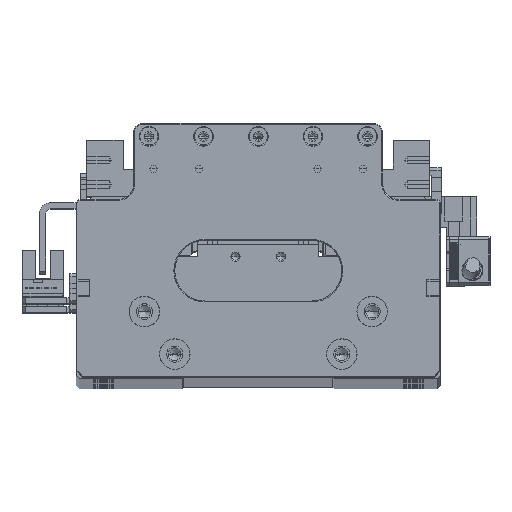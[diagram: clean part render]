
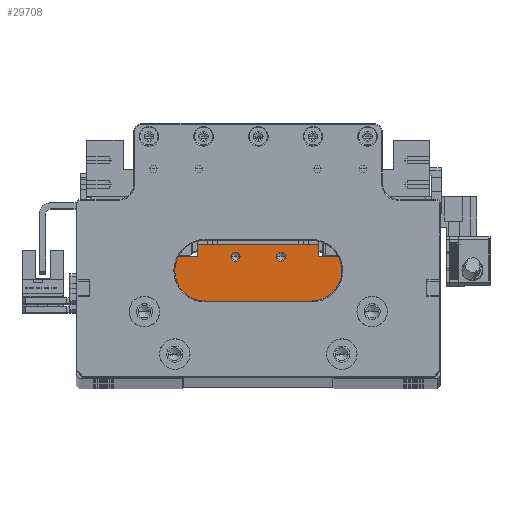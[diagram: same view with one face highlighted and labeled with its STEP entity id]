
A CAD part, top view. The second image highlights one B-rep face of the part: STEP entity #29708.
In plain terms, the highlighted planar face has unit normal (0, 0, 1).
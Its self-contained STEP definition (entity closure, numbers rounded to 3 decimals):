
#1036 = CARTESIAN_POINT ( 'NONE',  ( -7.5, 29.7, 83.854 ) ) ;
#2662 = CARTESIAN_POINT ( 'NONE',  ( -20., 25.7, 83.854 ) ) ;
#2849 = EDGE_CURVE ( 'NONE', #4302, #42334, #73839, .T. ) ;
#4302 = VERTEX_POINT ( 'NONE', #118295 ) ;
#4430 = CARTESIAN_POINT ( 'NONE',  ( -7.5, 25.7, 83.854 ) ) ;
#6044 = LINE ( 'NONE', #32846, #84446 ) ;
#7222 = EDGE_CURVE ( 'NONE', #77013, #39960, #92653, .T. ) ;
#7950 = ORIENTED_EDGE ( 'NONE', *, *, #119287, .F. ) ;
#10387 = VECTOR ( 'NONE', #34068, 1000. ) ;
#10815 = DIRECTION ( 'NONE',  ( 1., 0., 0. ) ) ;
#11184 = CARTESIAN_POINT ( 'NONE',  ( 5.975, 25.8, 83.854 ) ) ;
#11990 = VERTEX_POINT ( 'NONE', #11184 ) ;
#12767 = CARTESIAN_POINT ( 'NONE',  ( 7.5, 25.8, 83.854 ) ) ;
#13028 = DIRECTION ( 'NONE',  ( 0., 1., 0. ) ) ;
#14573 = CARTESIAN_POINT ( 'NONE',  ( 29.9, 25.7, 83.854 ) ) ;
#16438 = LINE ( 'NONE', #56252, #42579 ) ;
#16592 = DIRECTION ( 'NONE',  ( -1., 0., 0. ) ) ;
#16772 = VERTEX_POINT ( 'NONE', #14573 ) ;
#17120 = DIRECTION ( 'NONE',  ( 0., 1., 0. ) ) ;
#18432 = VECTOR ( 'NONE', #52966, 1000. ) ;
#19753 = CARTESIAN_POINT ( 'NONE',  ( 7.5, 25.8, 83.854 ) ) ;
#21993 = DIRECTION ( 'NONE',  ( 0., 0., 1. ) ) ;
#22700 = DIRECTION ( 'NONE',  ( 1., 0., 0. ) ) ;
#25108 = FACE_BOUND ( 'NONE', #78675, .T. ) ;
#28981 = DIRECTION ( 'NONE',  ( 0., -1., 0. ) ) ;
#29654 = DIRECTION ( 'NONE',  ( 1., 0., 0. ) ) ;
#29708 = ADVANCED_FACE ( 'NONE', ( #77389, #25108, #48092 ), #55708, .F. ) ;
#31917 = CARTESIAN_POINT ( 'NONE',  ( -7.5, 25.8, 83.854 ) ) ;
#32846 = CARTESIAN_POINT ( 'NONE',  ( -20., 18.2, 83.854 ) ) ;
#34068 = DIRECTION ( 'NONE',  ( 1., 0., 0. ) ) ;
#36559 = LINE ( 'NONE', #4430, #10387 ) ;
#38395 = CARTESIAN_POINT ( 'NONE',  ( 20., 18.2, 83.854 ) ) ;
#39960 = VERTEX_POINT ( 'NONE', #48830 ) ;
#40944 = EDGE_LOOP ( 'NONE', ( #70105, #49690, #107621, #7950, #80317, #75549, #46246, #125651 ) ) ;
#41177 = ORIENTED_EDGE ( 'NONE', *, *, #42309, .F. ) ;
#41758 = DIRECTION ( 'NONE',  ( 1., 0., 0. ) ) ;
#42309 = EDGE_CURVE ( 'NONE', #109748, #87453, #82904, .T. ) ;
#42318 = LINE ( 'NONE', #94685, #117597 ) ;
#42334 = VERTEX_POINT ( 'NONE', #2662 ) ;
#42579 = VECTOR ( 'NONE', #17120, 1000. ) ;
#42596 = CIRCLE ( 'NONE', #124258, 1.525 ) ;
#43756 = EDGE_CURVE ( 'NONE', #78269, #11990, #42596, .T. ) ;
#46246 = ORIENTED_EDGE ( 'NONE', *, *, #7222, .F. ) ;
#48092 = FACE_BOUND ( 'NONE', #114308, .T. ) ;
#48830 = CARTESIAN_POINT ( 'NONE',  ( 20., 29.7, 83.854 ) ) ;
#49690 = ORIENTED_EDGE ( 'NONE', *, *, #86736, .F. ) ;
#50967 = ORIENTED_EDGE ( 'NONE', *, *, #58809, .F. ) ;
#52382 = VERTEX_POINT ( 'NONE', #52848 ) ;
#52848 = CARTESIAN_POINT ( 'NONE',  ( 20., 25.7, 83.854 ) ) ;
#52966 = DIRECTION ( 'NONE',  ( 1., 0., 0. ) ) ;
#53151 = CARTESIAN_POINT ( 'NONE',  ( -20., 29.7, 83.854 ) ) ;
#54073 = LINE ( 'NONE', #38395, #100126 ) ;
#55708 = PLANE ( 'NONE',  #106803 ) ;
#56252 = CARTESIAN_POINT ( 'NONE',  ( -29.9, 18.2, 83.854 ) ) ;
#58809 = EDGE_CURVE ( 'NONE', #87453, #109748, #98059, .T. ) ;
#58899 = CARTESIAN_POINT ( 'NONE',  ( -5.975, 25.8, 83.854 ) ) ;
#60214 = ORIENTED_EDGE ( 'NONE', *, *, #43756, .F. ) ;
#62388 = VECTOR ( 'NONE', #93646, 1000. ) ;
#64556 = AXIS2_PLACEMENT_3D ( 'NONE', #31917, #100576, #41758 ) ;
#66584 = VECTOR ( 'NONE', #10815, 1000. ) ;
#66655 = CARTESIAN_POINT ( 'NONE',  ( 29.9, 6.5, 83.854 ) ) ;
#67441 = CIRCLE ( 'NONE', #76113, 1.525 ) ;
#68400 = EDGE_CURVE ( 'NONE', #11990, #78269, #67441, .T. ) ;
#70105 = ORIENTED_EDGE ( 'NONE', *, *, #2849, .F. ) ;
#71342 = EDGE_CURVE ( 'NONE', #94326, #112974, #88505, .T. ) ;
#73839 = LINE ( 'NONE', #102346, #18432 ) ;
#74919 = AXIS2_PLACEMENT_3D ( 'NONE', #80859, #21993, #90694 ) ;
#75490 = DIRECTION ( 'NONE',  ( 0., 0., -1. ) ) ;
#75549 = ORIENTED_EDGE ( 'NONE', *, *, #95179, .F. ) ;
#76113 = AXIS2_PLACEMENT_3D ( 'NONE', #19753, #88494, #29654 ) ;
#77013 = VERTEX_POINT ( 'NONE', #53151 ) ;
#77389 = FACE_OUTER_BOUND ( 'NONE', #40944, .T. ) ;
#78269 = VERTEX_POINT ( 'NONE', #82509 ) ;
#78675 = EDGE_LOOP ( 'NONE', ( #60214, #126557 ) ) ;
#79264 = EDGE_CURVE ( 'NONE', #52382, #16772, #36559, .T. ) ;
#80317 = ORIENTED_EDGE ( 'NONE', *, *, #79264, .F. ) ;
#80859 = CARTESIAN_POINT ( 'NONE',  ( -7.5, 25.8, 83.854 ) ) ;
#81538 = DIRECTION ( 'NONE',  ( 0., 0., 1. ) ) ;
#82509 = CARTESIAN_POINT ( 'NONE',  ( 9.025, 25.8, 83.854 ) ) ;
#82904 = CIRCLE ( 'NONE', #74919, 1.525 ) ;
#84446 = VECTOR ( 'NONE', #13028, 1000. ) ;
#86736 = EDGE_CURVE ( 'NONE', #94326, #4302, #16438, .T. ) ;
#87453 = VERTEX_POINT ( 'NONE', #58899 ) ;
#88494 = DIRECTION ( 'NONE',  ( 0., 0., 1. ) ) ;
#88505 = LINE ( 'NONE', #122792, #62388 ) ;
#90694 = DIRECTION ( 'NONE',  ( 1., 0., 0. ) ) ;
#92653 = LINE ( 'NONE', #1036, #66584 ) ;
#93646 = DIRECTION ( 'NONE',  ( 1., 0., 0. ) ) ;
#94326 = VERTEX_POINT ( 'NONE', #104693 ) ;
#94685 = CARTESIAN_POINT ( 'NONE',  ( 29.9, 18.2, 83.854 ) ) ;
#95179 = EDGE_CURVE ( 'NONE', #39960, #52382, #54073, .T. ) ;
#95500 = CARTESIAN_POINT ( 'NONE',  ( -9.025, 25.8, 83.854 ) ) ;
#98059 = CIRCLE ( 'NONE', #64556, 1.525 ) ;
#100126 = VECTOR ( 'NONE', #28981, 1000. ) ;
#100576 = DIRECTION ( 'NONE',  ( 0., 0., 1. ) ) ;
#102346 = CARTESIAN_POINT ( 'NONE',  ( -7.5, 25.7, 83.854 ) ) ;
#104052 = EDGE_CURVE ( 'NONE', #42334, #77013, #6044, .T. ) ;
#104693 = CARTESIAN_POINT ( 'NONE',  ( -29.9, 6.5, 83.854 ) ) ;
#104956 = DIRECTION ( 'NONE',  ( 0., -1., 0. ) ) ;
#106803 = AXIS2_PLACEMENT_3D ( 'NONE', #124338, #75490, #16592 ) ;
#107621 = ORIENTED_EDGE ( 'NONE', *, *, #71342, .T. ) ;
#109748 = VERTEX_POINT ( 'NONE', #95500 ) ;
#112974 = VERTEX_POINT ( 'NONE', #66655 ) ;
#114308 = EDGE_LOOP ( 'NONE', ( #50967, #41177 ) ) ;
#117597 = VECTOR ( 'NONE', #104956, 1000. ) ;
#118295 = CARTESIAN_POINT ( 'NONE',  ( -29.9, 25.7, 83.854 ) ) ;
#119287 = EDGE_CURVE ( 'NONE', #16772, #112974, #42318, .T. ) ;
#122792 = CARTESIAN_POINT ( 'NONE',  ( -7.5, 6.5, 83.854 ) ) ;
#124258 = AXIS2_PLACEMENT_3D ( 'NONE', #12767, #81538, #22700 ) ;
#124338 = CARTESIAN_POINT ( 'NONE',  ( -7.5, 18.2, 83.854 ) ) ;
#125651 = ORIENTED_EDGE ( 'NONE', *, *, #104052, .F. ) ;
#126557 = ORIENTED_EDGE ( 'NONE', *, *, #68400, .F. ) ;
